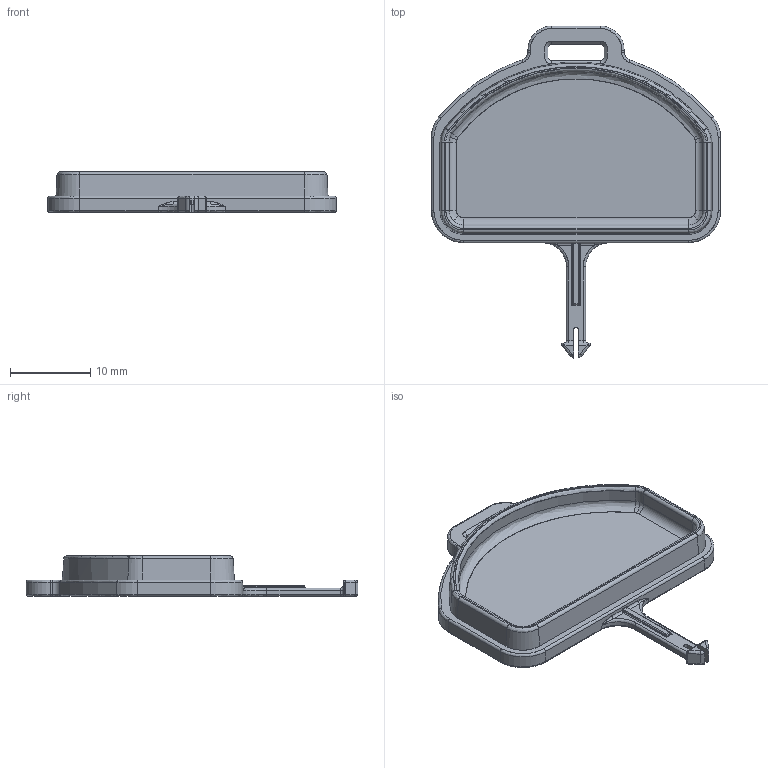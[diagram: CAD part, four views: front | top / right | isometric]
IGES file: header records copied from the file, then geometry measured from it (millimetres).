
Start section: SolidWorks IGES FILE using analytic representation for surfaces
Global section: file name: C:\Users\georg\Desktop\Wifree\WiFree Copter öffentliche Version V1\Akku Deckel.IGS; native system: SolidWorks 2001 by SolidWorks Corporation; preprocessor: Version 5.2; author: georg; date: 161221.200957; units: millimetre
Bounding box: 36 x 41.35 x 5 mm (x, y, z)
Surface area: 2355 mm2 (no closed solid volume)
Topology: 0 solids, 0 shells, 206 faces, 1362 edges, 1351 vertices
Faces by surface type: bspline 111, revolution 95
